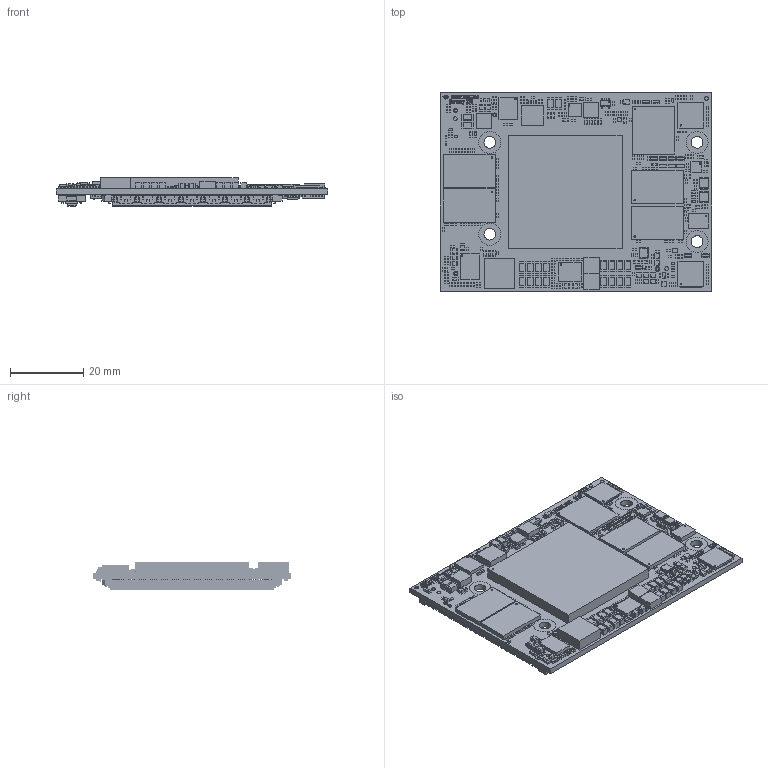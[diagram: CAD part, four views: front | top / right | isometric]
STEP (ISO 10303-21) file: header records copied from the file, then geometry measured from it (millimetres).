
FILE_DESCRIPTION(('Open CASCADE Model'),'2;1');
FILE_NAME('Open CASCADE Shape Model','2019-06-04T15:53:27',('Author'),( 'Open CASCADE'),'Open CASCADE STEP processor 6.8','Open CASCADE 6.8' ,'Unknown');
FILE_SCHEMA(('AUTOMOTIVE_DESIGN { 1 0 10303 214 1 1 1 1 }'));
Length unit declared in the file: millimetre
Products named in the file (814): --
Assembly tree (1423 placements, depth 5):
  --
    --
    --
      --
        --
    --
      --
        --
        --
        --
        --
        --
      --
        --
        --
        --
        --
        --
        --
        --
        --
        --
    --
      --
        --
          --
        --
          --
        --
          --
        --
          --
        --
          --
        --
          --
        --
          --
      --
        --
      --
        --
      --
        --
    --
      --  x4
      --  x4
    --
      --
        --
      --
        --
    --
      --
        --
      --
        --
    --
      --
        --
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Bounding box: 74 x 54 x 7.81 mm (x, y, z)
Volume: 13394.5 mm3; surface area: 23862.5 mm2
Topology: 1809 solids, 1809 shells, 22024 faces, 51775 edges, 33947 vertices
Faces by surface type: plane 20503, extrusion 891, cylinder 567, sphere 34, torus 16, cone 12, bspline 1
Full cylindrical faces by diameter (mm): 0.19 x2, 0.2 x16, 0.3 x3, 0.4 x20, 1 x6, 1.1 x3, 1.2 x3, 3.2 x8, 6 x4
Entity records: 255149 total; most frequent: CARTESIAN_POINT 42603, ORIENTED_EDGE 34208, DIRECTION 31308, EDGE_CURVE 17104, VECTOR 15564, LINE 14765, VERTEX_POINT 11293, AXIS2_PLACEMENT_3D 7872
